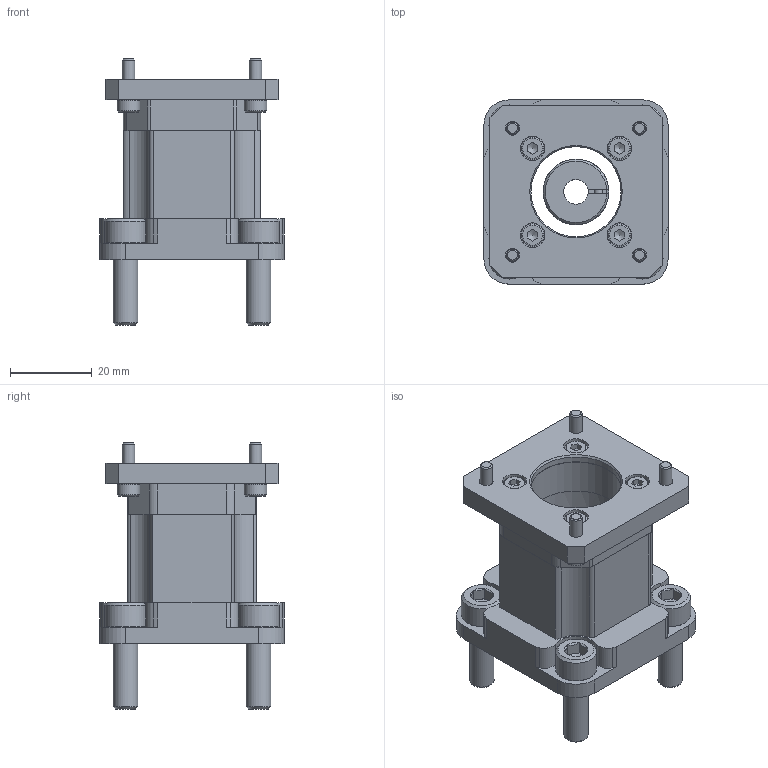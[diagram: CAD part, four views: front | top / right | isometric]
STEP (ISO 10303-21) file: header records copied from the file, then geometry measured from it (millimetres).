
FILE_DESCRIPTION(/* description */ ('EAMK-A O-Coupling housing'),/* implementation_level */ '2;1');
FILE_NAME(/* name */ 'C:\ホームページ用データ\\X2\307E305A30533053306B\X0\\J08129.stp',/* time_stamp */ '2015-04-07T15:31:52+09:00',/* author */ ('jp4te01'),/* organization */ ('FESTO'),/* preprocessor_version */ 'ST-DEVELOPER v15.2',/* originating_system */ 'Autodesk Inventor 2014',/* authorisation */ '');
FILE_SCHEMA (('AUTOMOTIVE_DESIGN { 1 0 10303 214 3 1 1 }'));
Products named in the file (9): 552155 EAMK-A-D32-28---(1O); DIN-912 - M6x20(F); 552155 EAMK-A-D32-28B; J08170; DIN_912___M3x10_F_; 543420 EAMC-16-20-6-6; コピー版 JIS B 1176 - M3 x 15; J08129
Bounding box: 45 x 45 x 65 mm (x, y, z)
Volume: 36789 mm3; surface area: 23806.8 mm2
Topology: 15 solids, 16 shells, 587 faces, 1378 edges, 863 vertices
Faces by surface type: plane 279, cylinder 159, cone 135, torus 14
Full cylindrical faces by diameter (mm): 1 x8, 2 x3, 2.1 x3, 2.459 x8, 3 x8, 3.4 x8, 3.8 x2, 4 x2, 5.5 x8, 6 x8, 6.2 x1, 10 x4, 22 x1, 22.2 x1, 32 x1
Entity records: 11018 total; most frequent: CARTESIAN_POINT 2191, DIRECTION 1906, ORIENTED_EDGE 1624, EDGE_CURVE 812, AXIS2_PLACEMENT_3D 769, VERTEX_POINT 576, EDGE_LOOP 536, ADVANCED_FACE 373
